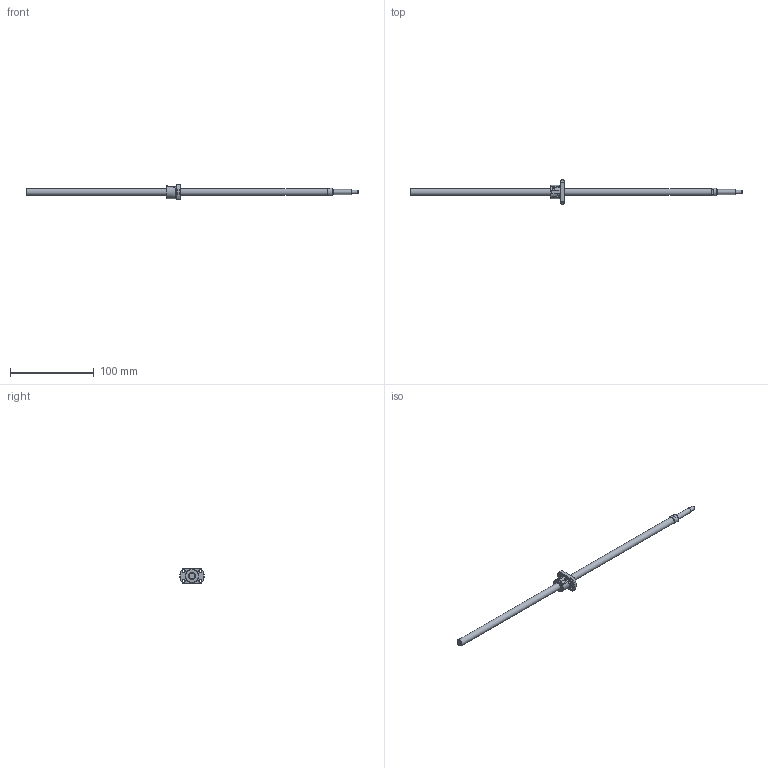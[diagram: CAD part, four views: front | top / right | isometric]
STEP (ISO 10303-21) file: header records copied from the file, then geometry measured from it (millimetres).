
FILE_DESCRIPTION(/* description */ ('STEP AP214'),/* implementation_level */ '2;1');
FILE_NAME(/* name */ 'SRT0801-356R397C7A0X(167.5Processing)',/* time_stamp */ '2026-08-04T19:55:25+02:00',/* author */ ('License CC BY-ND 4.0'),/* organization */ ('CADENAS'),/* preprocessor_version */ 'ST-DEVELOPER v20',/* originating_system */ 'PARTsolutions',/* authorisation */ ' ');
FILE_SCHEMA (('AUTOMOTIVE_DESIGN {1 0 10303 214 3 1 1}'));
Length unit declared in the file: millimetre
Products named in the file (3): SRT0801-356R397C7A0X(167.5Processing); SRT0801-356R430ACt7Processing30Shaft; SRT0801Nut
Assembly tree (2 placements, depth 2):
  SRT0801-356R397C7A0X(167.5Processing)
    SRT0801-356R430ACt7Processing30Shaft
    SRT0801Nut
Bounding box: 397 x 29 x 18 mm (x, y, z)
Volume: 22655 mm3; surface area: 12296 mm2
Topology: 2 solids, 2 shells, 64 faces, 156 edges, 99 vertices
Faces by surface type: plane 31, cylinder 17, cone 15, torus 1
Full cylindrical faces by diameter (mm): 2 x2, 3.4 x4, 4.5 x1, 6 x1, 8 x2, 9.5 x1, 15.5 x1, 16 x1
Entity records: 1805 total; most frequent: CARTESIAN_POINT 347, DIRECTION 302, ORIENTED_EDGE 248, AXIS2_PLACEMENT_3D 129, EDGE_CURVE 124, EDGE_LOOP 98, FACE_BOUND 98, VERTEX_POINT 88
